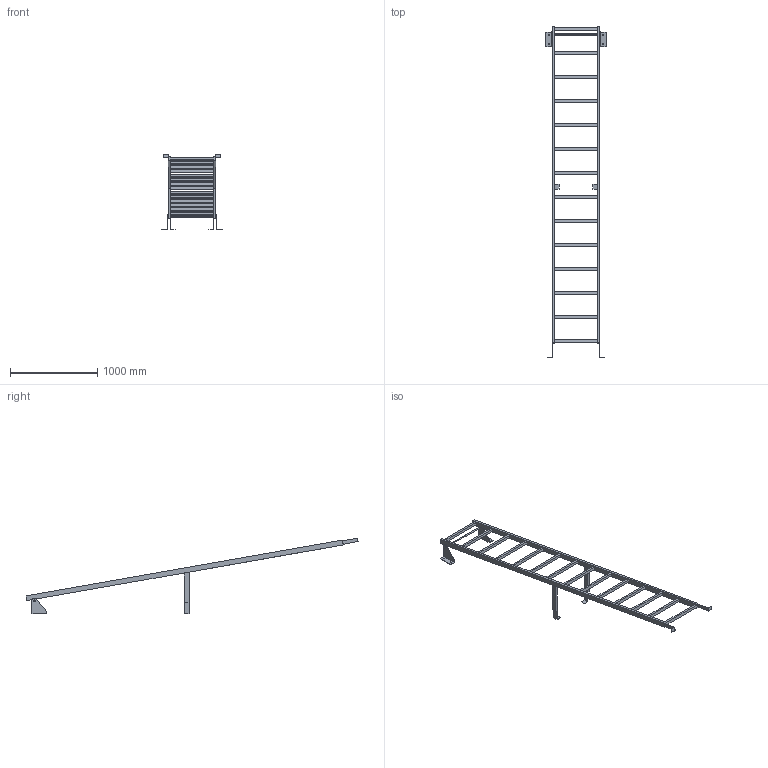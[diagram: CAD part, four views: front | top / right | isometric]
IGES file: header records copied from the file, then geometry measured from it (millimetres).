
Start section:  PTC IGES file: 52309780.igs
Global section: file name: 52309780.igs; native system: Creo Parametric by PTC Inc.; preprocessor: 2022162; author: wep; organization: Unknown; date: 20241017.090508; units: millimetre
Bounding box: 690 x 3813.72 x 869.9 mm (x, y, z)
Surface area: 2423114.2 mm2 (no closed solid volume)
Topology: 0 solids, 0 shells, 140 faces, 744 edges, 744 vertices
Faces by surface type: bspline 124, revolution 16
